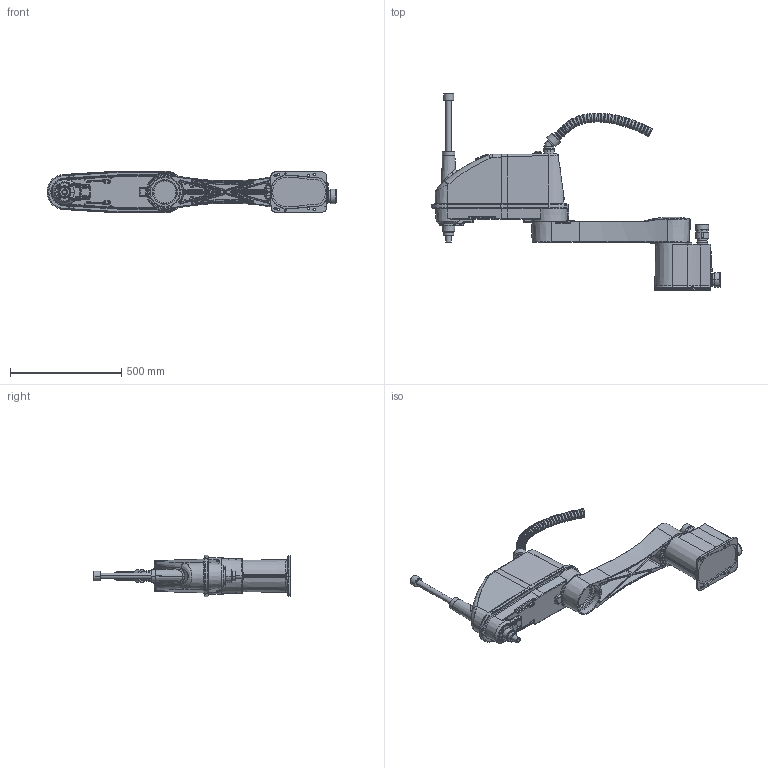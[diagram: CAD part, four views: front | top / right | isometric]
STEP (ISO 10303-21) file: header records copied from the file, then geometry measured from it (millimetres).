
FILE_DESCRIPTION((''),'2;1');
FILE_NAME('THE1000_3D_ASM','2024-06-10T11:39:50',('15575'),(''),'CREO PARAMETRIC BY PTC INC, 2020454','CREO PARAMETRIC BY PTC INC, 2020454','');
FILE_SCHEMA(('AUTOMOTIVE_DESIGN { 1 0 10303 214 1 1 1 1 }'));
Products named in the file (6): THE1000_BASE; THE1000_1ST_ARM; THE1000_2ND_ARM; THE1000_BALL_SCREW; THE1000_CABLE_SHORT; THE1000_3D_ASM
Assembly tree (5 placements, depth 2):
  THE1000_3D_ASM
    THE1000_BASE
    THE1000_1ST_ARM
    THE1000_2ND_ARM
    THE1000_BALL_SCREW
    THE1000_CABLE_SHORT
Bounding box: 1301 x 880 x 188 mm (x, y, z)
Volume: 15749015.5 mm3; surface area: 2244257.3 mm2
Topology: 5 solids, 65 shells, 4273 faces, 9885 edges, 6082 vertices
Faces by surface type: cylinder 1576, plane 1478, bspline 504, torus 356, cone 247, sphere 106, revolution 6
Entity records: 183756 total; most frequent: CARTESIAN_POINT 64573, DIRECTION 19944, ORIENTED_EDGE 19534, EDGE_CURVE 9805, AXIS2_PLACEMENT_3D 7815, VERTEX_POINT 6078, EDGE_LOOP 4867, VECTOR 4290
